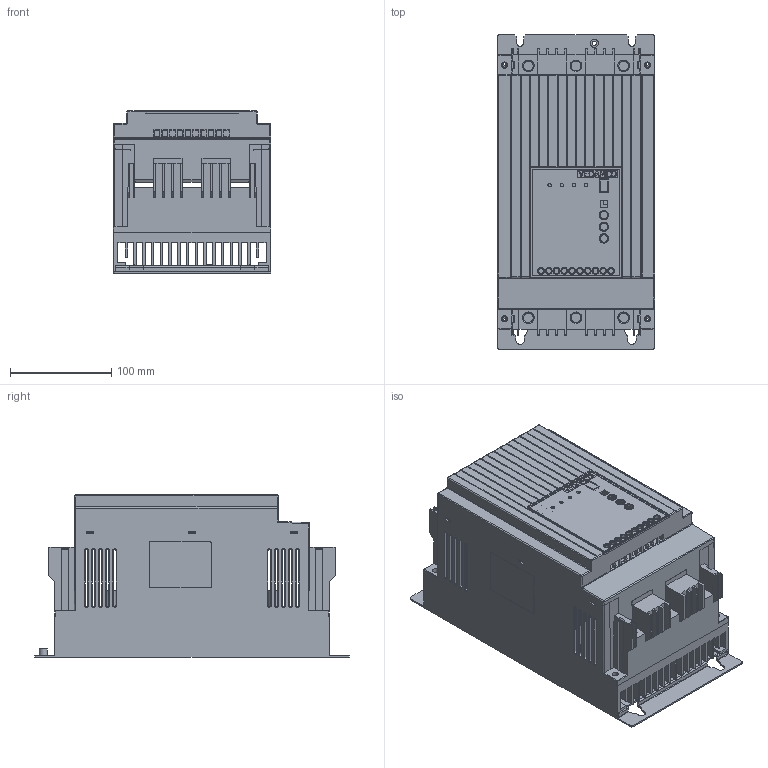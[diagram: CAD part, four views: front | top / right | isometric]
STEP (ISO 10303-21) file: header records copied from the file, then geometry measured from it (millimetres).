
FILE_DESCRIPTION(/* description */ (''),/* implementation_level */ '2;1');
FILE_NAME(/* name */ 'O:\БЭМ\Personal\Абрамов\262-20-1 ТП Драчево\3D Inventor\MCD1\Адаптированные\C4.stp',/* time_stamp */ '2023-10-04T07:37:33+03:00',/* author */ ('a.abramov'),/* organization */ (''),/* preprocessor_version */ 'ST-DEVELOPER v18.1',/* originating_system */ 'Autodesk Inventor 2022',/* authorisation */ '');
FILE_SCHEMA (('AUTOMOTIVE_DESIGN { 1 0 10303 214 3 1 1 }'));
Products named in the file (1): C4
Bounding box: 155 x 310 x 159.7 mm (x, y, z)
Volume: 1172401.7 mm3; surface area: 771048.7 mm2
Topology: 1 solids, 19 shells, 2618 faces, 7272 edges, 4747 vertices
Faces by surface type: plane 2022, cylinder 326, cone 170, torus 44, bspline 42, sphere 14
Full cylindrical faces by diameter (mm): 2.5 x2, 2.6 x1, 3 x13, 3.6 x6, 4 x4, 4.2 x4, 4.3 x1, 4.5 x4, 6 x4, 8 x1, 9.5 x6
Entity records: 87216 total; most frequent: CARTESIAN_POINT 16661, ORIENTED_EDGE 14518, DIRECTION 13438, EDGE_CURVE 7259, LINE 5894, VECTOR 5894, VERTEX_POINT 4747, AXIS2_PLACEMENT_3D 3772
